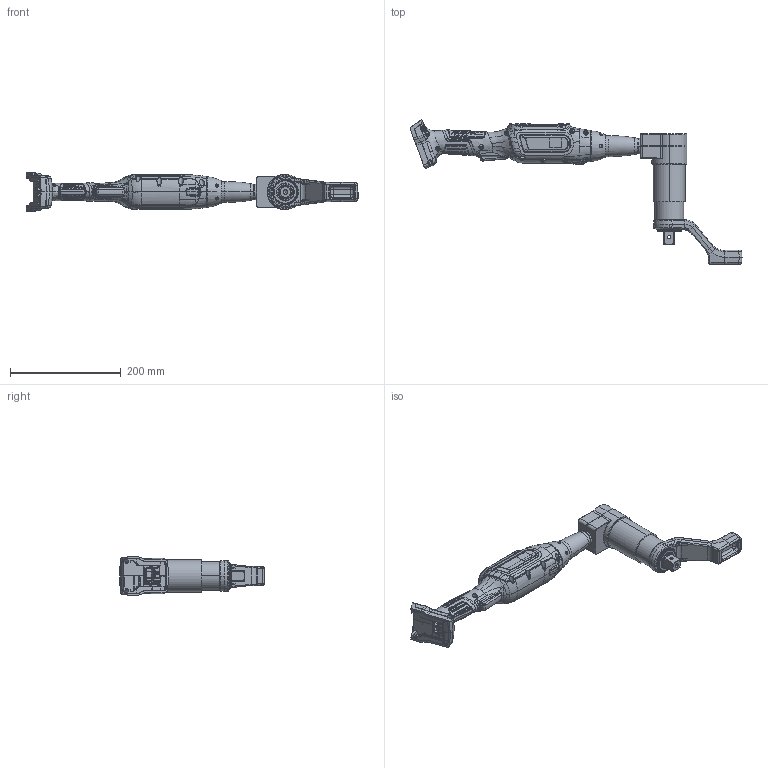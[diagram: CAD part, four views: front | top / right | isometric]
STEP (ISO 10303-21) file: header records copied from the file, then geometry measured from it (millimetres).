
FILE_DESCRIPTION (( 'STEP AP214' ), '1' );
FILE_NAME ('CLECO - CELLCORE HT RIGHT ANGLE - #CCBAWN750NB6.STEP', '2020-10-29T16:42:25', ( 'W7Admin' ), ( 'Apex Tool Group, LLC' ), 'SwSTEP 2.0', 'SolidWorks 2019', '' );
FILE_SCHEMA (( 'AUTOMOTIVE_DESIGN' ));
Length unit declared in the file: millimetre
Products named in the file (1): CLECO - CELLCORE HT RIGHT ANGLE - #CCBAWN750NB6
Bounding box: 598.3 x 260.26 x 69.65 mm (x, y, z)
Surface area: 193951.8 mm2 (no closed solid volume)
Topology: 0 solids, 263 shells, 3252 faces, 13027 edges, 9578 vertices
Faces by surface type: bspline 1636, cylinder 788, plane 559, cone 245, torus 24
Entity records: 277579 total; most frequent: CARTESIAN_POINT 157651, ORIENTED_EDGE 18415, EDGE_CURVE 12880, DIRECTION 11070, VERTEX_POINT 9571, B_SPLINE_CURVE_WITH_KNOTS 6632, AXIS2_PLACEMENT_3D 3857, EDGE_LOOP 3465
